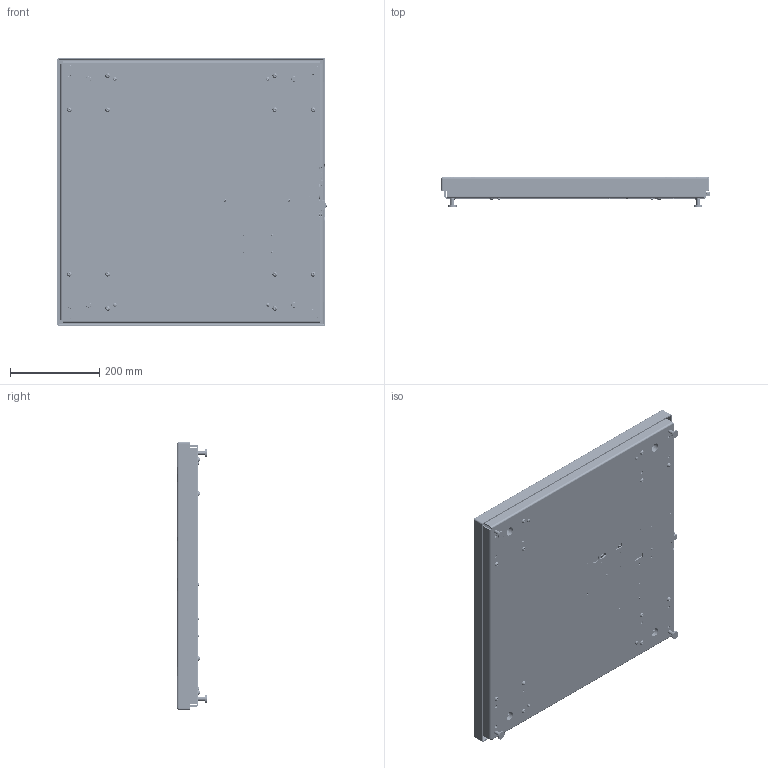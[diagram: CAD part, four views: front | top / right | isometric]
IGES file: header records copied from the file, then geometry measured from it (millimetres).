
Start section: SolidWorks IGES file using analytic representation for surfaces
Global section: file name: C:\0_Work\SolidWorks\~0_E-Scales\24x24\E-SCALE-6500PB-2424-660.IGS; native system: SolidWorks 2017; preprocessor: SolidWorks 2017; author: vach01; date: 190827.161831; units: millimetre
Bounding box: 603.77 x 66.39 x 600 mm (x, y, z)
Surface area: 2006739.3 mm2 (no closed solid volume)
Topology: 0 solids, 0 shells, 20789 faces, 171367 edges, 171192 vertices
Faces by surface type: bspline 16301, revolution 4488
